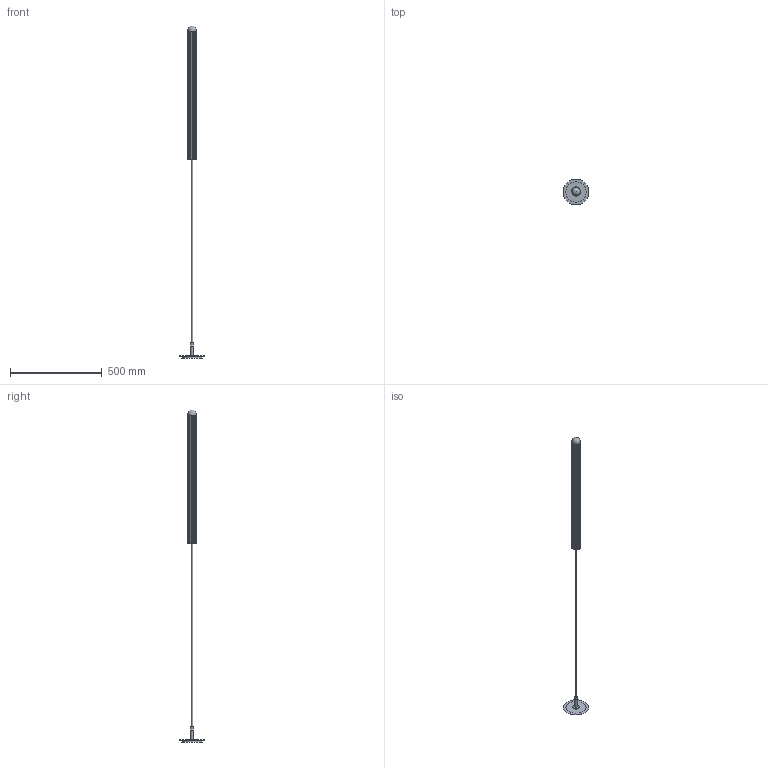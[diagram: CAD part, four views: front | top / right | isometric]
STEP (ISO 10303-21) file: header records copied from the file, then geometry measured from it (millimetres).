
FILE_DESCRIPTION(/* description */ (''),/* implementation_level */ '2;1');
FILE_NAME(/* name */ '250924_B_B762 Vesta Single XLG.stp',/* time_stamp */ '2025-09-24T09:59:02+02:00',/* author */ ('Dominik'),/* organization */ (''),/* preprocessor_version */ 'ST-DEVELOPER v20.1',/* originating_system */ 'Autodesk Inventor 2026',/* authorisation */ '');
FILE_SCHEMA (('AUTOMOTIVE_DESIGN { 1 0 10303 214 3 1 1 }'));
Length unit declared in the file: millimetre
Products named in the file (1): B762 Vesta Single XLG katalog
Bounding box: 140 x 140 x 1814.3 mm (x, y, z)
Volume: 1456809.7 mm3; surface area: 211640.6 mm2
Topology: 8 solids, 8 shells, 98 faces, 232 edges, 153 vertices
Faces by surface type: plane 47, cylinder 37, cone 6, torus 5, bspline 2, sphere 1
Full cylindrical faces by diameter (mm): 7 x1, 12 x1, 13 x2, 17 x1, 34.5 x1, 36 x1, 110 x1, 140 x1
Entity records: 3171 total; most frequent: CARTESIAN_POINT 627, DIRECTION 523, ORIENTED_EDGE 462, EDGE_CURVE 231, AXIS2_PLACEMENT_3D 198, VERTEX_POINT 153, LINE 127, VECTOR 127
